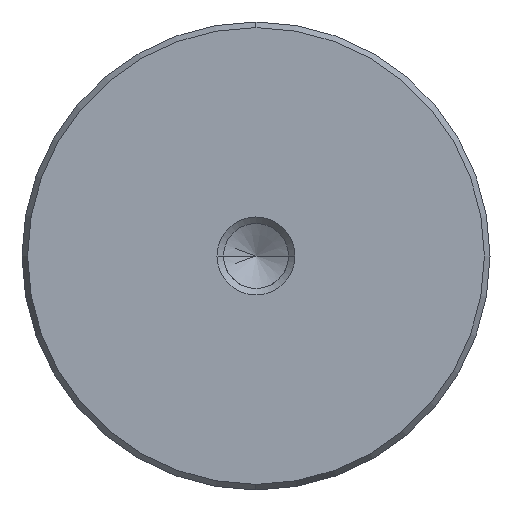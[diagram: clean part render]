
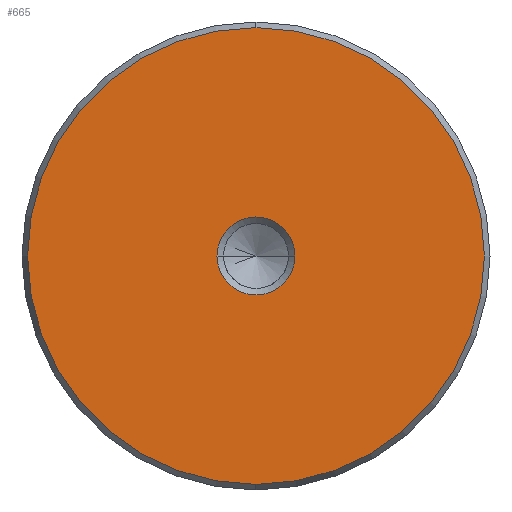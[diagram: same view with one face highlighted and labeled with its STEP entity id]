
A CAD part, left-side view. The second image highlights one B-rep face of the part: STEP entity #665.
In plain terms, the highlighted planar face has unit normal (-1, 0, 0).
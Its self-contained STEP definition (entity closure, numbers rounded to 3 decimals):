
#579=CARTESIAN_POINT('Vertex',(0.,0.,-23.423)) ;
#582=CARTESIAN_POINT('Axis2P3D Location',(0.,0.,0.)) ;
#586=CARTESIAN_POINT('Vertex',(0.,23.423,0.)) ;
#589=CARTESIAN_POINT('Axis2P3D Location',(0.,0.,0.)) ;
#593=CARTESIAN_POINT('Vertex',(0.,0.,23.423)) ;
#615=CARTESIAN_POINT('Axis2P3D Location',(0.,0.,0.)) ;
#619=CARTESIAN_POINT('Vertex',(0.,-23.423,0.)) ;
#622=CARTESIAN_POINT('Axis2P3D Location',(0.,0.,0.)) ;
#636=CARTESIAN_POINT('Axis2P3D Location',(0.,0.,0.)) ;
#647=CARTESIAN_POINT('Axis2P3D Location',(0.,0.,0.)) ;
#651=CARTESIAN_POINT('Vertex',(0.,4.,0.)) ;
#653=CARTESIAN_POINT('Vertex',(0.,-4.,0.)) ;
#656=CARTESIAN_POINT('Axis2P3D Location',(0.,0.,0.)) ;
#583=DIRECTION('Axis2P3D Direction',(1.,0.,-0.)) ;
#590=DIRECTION('Axis2P3D Direction',(1.,0.,-0.)) ;
#616=DIRECTION('Axis2P3D Direction',(1.,0.,-0.)) ;
#623=DIRECTION('Axis2P3D Direction',(1.,0.,-0.)) ;
#637=DIRECTION('Axis2P3D Direction',(1.,0.,-0.)) ;
#638=DIRECTION('Axis2P3D XDirection',(-0.,0.,-1.)) ;
#648=DIRECTION('Axis2P3D Direction',(1.,0.,-0.)) ;
#657=DIRECTION('Axis2P3D Direction',(1.,0.,-0.)) ;
#584=AXIS2_PLACEMENT_3D('Circle Axis2P3D',#582,#583,$) ;
#591=AXIS2_PLACEMENT_3D('Circle Axis2P3D',#589,#590,$) ;
#617=AXIS2_PLACEMENT_3D('Circle Axis2P3D',#615,#616,$) ;
#624=AXIS2_PLACEMENT_3D('Circle Axis2P3D',#622,#623,$) ;
#639=AXIS2_PLACEMENT_3D('Plane Axis2P3D',#636,#637,#638) ;
#649=AXIS2_PLACEMENT_3D('Circle Axis2P3D',#647,#648,$) ;
#658=AXIS2_PLACEMENT_3D('Circle Axis2P3D',#656,#657,$) ;
#642=ORIENTED_EDGE('',*,*,#588,.F.) ;
#643=ORIENTED_EDGE('',*,*,#626,.F.) ;
#644=ORIENTED_EDGE('',*,*,#621,.F.) ;
#645=ORIENTED_EDGE('',*,*,#595,.F.) ;
#662=ORIENTED_EDGE('',*,*,#655,.T.) ;
#663=ORIENTED_EDGE('',*,*,#660,.T.) ;
#664=FACE_BOUND('',#661,.T.) ;
#665=ADVANCED_FACE('720-48x355',(#646,#664),#640,.F.) ;
#585=CIRCLE('generated circle',#584,23.423) ;
#592=CIRCLE('generated circle',#591,23.423) ;
#618=CIRCLE('generated circle',#617,23.423) ;
#625=CIRCLE('generated circle',#624,23.423) ;
#650=CIRCLE('generated circle',#649,4.) ;
#659=CIRCLE('generated circle',#658,4.) ;
#588=EDGE_CURVE('',#580,#587,#585,.T.) ;
#595=EDGE_CURVE('',#587,#594,#592,.T.) ;
#621=EDGE_CURVE('',#594,#620,#618,.T.) ;
#626=EDGE_CURVE('',#620,#580,#625,.T.) ;
#655=EDGE_CURVE('',#652,#654,#650,.T.) ;
#660=EDGE_CURVE('',#654,#652,#659,.T.) ;
#641=EDGE_LOOP('',(#642,#643,#644,#645)) ;
#661=EDGE_LOOP('',(#662,#663)) ;
#646=FACE_OUTER_BOUND('',#641,.T.) ;
#640=PLANE('Plane',#639) ;
#580=VERTEX_POINT('',#579) ;
#587=VERTEX_POINT('',#586) ;
#594=VERTEX_POINT('',#593) ;
#620=VERTEX_POINT('',#619) ;
#652=VERTEX_POINT('',#651) ;
#654=VERTEX_POINT('',#653) ;
